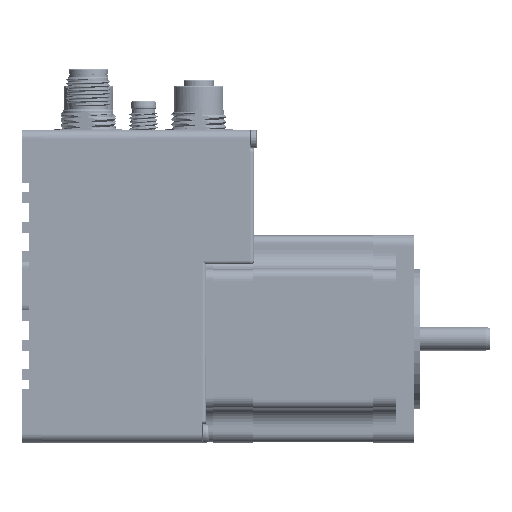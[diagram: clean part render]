
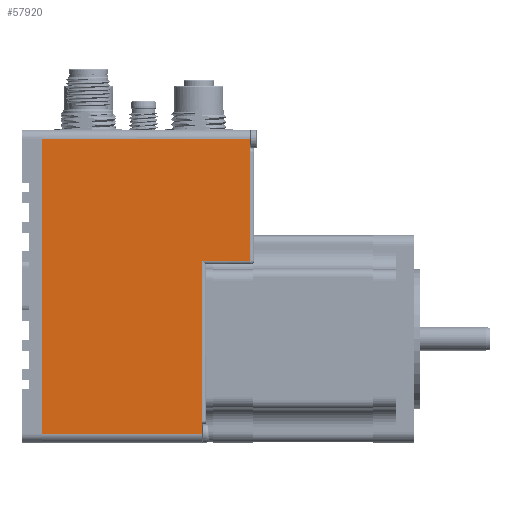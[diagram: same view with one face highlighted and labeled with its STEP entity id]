
A CAD part, left-side view. The second image highlights one B-rep face of the part: STEP entity #57920.
In plain terms, the highlighted planar face has unit normal (-1, 0, 0) as drawn and (0, -1, 0) by its records, which use the part's own axes.
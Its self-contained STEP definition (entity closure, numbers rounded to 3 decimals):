
#1123=B_SPLINE_CURVE_WITH_KNOTS('',3,(#95119,#95120,#95121,#95122),
 .UNSPECIFIED.,.F.,.F.,(4,4),(-0.026,1.),
 .UNSPECIFIED.);
#1129=B_SPLINE_CURVE_WITH_KNOTS('',3,(#95164,#95165,#95166,#95167),
 .UNSPECIFIED.,.F.,.F.,(4,4),(-0.571,0.429),
 .UNSPECIFIED.);
#1174=B_SPLINE_CURVE_WITH_KNOTS('',3,(#95420,#95421,#95422,#95423),
 .UNSPECIFIED.,.F.,.F.,(4,4),(0.,1.),.UNSPECIFIED.);
#1175=B_SPLINE_CURVE_WITH_KNOTS('',3,(#95425,#95426,#95427,#95428),
 .UNSPECIFIED.,.F.,.F.,(4,4),(0.,1.),.UNSPECIFIED.);
#1176=B_SPLINE_CURVE_WITH_KNOTS('',3,(#95430,#95431,#95432,#95433),
 .UNSPECIFIED.,.F.,.F.,(4,4),(0.,1.),.UNSPECIFIED.);
#1177=B_SPLINE_CURVE_WITH_KNOTS('',3,(#95435,#95436,#95437,#95438),
 .UNSPECIFIED.,.F.,.F.,(4,4),(0.,1.),.UNSPECIFIED.);
#1178=B_SPLINE_CURVE_WITH_KNOTS('',3,(#95440,#95441,#95442,#95443),
 .UNSPECIFIED.,.F.,.F.,(4,4),(0.,1.072),.UNSPECIFIED.);
#8709=ORIENTED_EDGE('',*,*,#25254,.T.);
#8710=ORIENTED_EDGE('',*,*,#25255,.T.);
#8711=ORIENTED_EDGE('',*,*,#25256,.T.);
#8712=ORIENTED_EDGE('',*,*,#25257,.T.);
#8713=ORIENTED_EDGE('',*,*,#25201,.F.);
#8714=ORIENTED_EDGE('',*,*,#25258,.T.);
#8715=ORIENTED_EDGE('',*,*,#25189,.T.);
#8716=ORIENTED_EDGE('',*,*,#25253,.F.);
#25189=EDGE_CURVE('',#33682,#33681,#1123,.T.);
#25201=EDGE_CURVE('',#33693,#33686,#1129,.T.);
#25253=EDGE_CURVE('',#33725,#33681,#1174,.F.);
#25254=EDGE_CURVE('',#33725,#33726,#1175,.T.);
#25255=EDGE_CURVE('',#33726,#33727,#1176,.T.);
#25256=EDGE_CURVE('',#33727,#33728,#1177,.T.);
#25257=EDGE_CURVE('',#33728,#33686,#1178,.T.);
#25258=EDGE_CURVE('',#33693,#33682,#39950,.F.);
#33681=VERTEX_POINT('',#95118);
#33682=VERTEX_POINT('',#95123);
#33686=VERTEX_POINT('',#95144);
#33693=VERTEX_POINT('',#95163);
#33725=VERTEX_POINT('',#95419);
#33726=VERTEX_POINT('',#95429);
#33727=VERTEX_POINT('',#95434);
#33728=VERTEX_POINT('',#95439);
#39950=LINE('',#95444,#44439);
#44439=VECTOR('',#81494,1000.);
#48411=EDGE_LOOP('',(#8709,#8710,#8711,#8712,#8713,#8714,#8715,#8716));
#52384=FACE_BOUND('',#48411,.T.);
#56228=PLANE('',#75529);
#57920=ADVANCED_FACE('',(#52384),#56228,.T.);
#75529=AXIS2_PLACEMENT_3D('',#95424,#81492,#81493);
#81492=DIRECTION('',(0.,-1.,0.));
#81493=DIRECTION('',(1.,0.,0.));
#81494=DIRECTION('',(0.,0.,1.));
#95118=CARTESIAN_POINT('',(44.,-28.2,0.));
#95119=CARTESIAN_POINT('',(-36.,-28.2,0.));
#95120=CARTESIAN_POINT('',(-9.333,-28.2,0.));
#95121=CARTESIAN_POINT('',(17.333,-28.2,0.));
#95122=CARTESIAN_POINT('',(44.,-28.2,0.));
#95123=CARTESIAN_POINT('',(-36.,-28.2,0.));
#95144=CARTESIAN_POINT('',(-32.5,-28.2,56.5));
#95163=CARTESIAN_POINT('',(-36.,-28.2,56.5));
#95164=CARTESIAN_POINT('',(-36.,-28.2,56.5));
#95165=CARTESIAN_POINT('',(-34.833,-28.2,56.5));
#95166=CARTESIAN_POINT('',(-33.667,-28.2,56.5));
#95167=CARTESIAN_POINT('',(-32.5,-28.2,56.5));
#95419=CARTESIAN_POINT('',(44.,-28.2,43.5));
#95420=CARTESIAN_POINT('',(44.,-28.2,0.));
#95421=CARTESIAN_POINT('',(44.,-28.2,14.5));
#95422=CARTESIAN_POINT('',(44.,-28.2,29.));
#95423=CARTESIAN_POINT('',(44.,-28.2,43.5));
#95424=CARTESIAN_POINT('',(-36.5,-28.2,0.));
#95425=CARTESIAN_POINT('',(44.,-28.2,43.5));
#95426=CARTESIAN_POINT('',(42.833,-28.2,43.5));
#95427=CARTESIAN_POINT('',(41.667,-28.2,43.5));
#95428=CARTESIAN_POINT('',(40.5,-28.2,43.5));
#95429=CARTESIAN_POINT('',(40.5,-28.2,43.5));
#95430=CARTESIAN_POINT('',(40.5,-28.2,43.5));
#95431=CARTESIAN_POINT('',(26.033,-28.2,43.5));
#95432=CARTESIAN_POINT('',(11.567,-28.2,43.5));
#95433=CARTESIAN_POINT('',(-2.9,-28.2,43.5));
#95434=CARTESIAN_POINT('',(-2.9,-28.2,43.5));
#95435=CARTESIAN_POINT('',(-2.9,-28.2,43.5));
#95436=CARTESIAN_POINT('',(-2.9,-28.2,47.833));
#95437=CARTESIAN_POINT('',(-2.9,-28.2,52.167));
#95438=CARTESIAN_POINT('',(-2.9,-28.2,56.5));
#95439=CARTESIAN_POINT('',(-2.9,-28.2,56.5));
#95440=CARTESIAN_POINT('',(-2.9,-28.2,56.5));
#95441=CARTESIAN_POINT('',(-12.767,-28.2,56.5));
#95442=CARTESIAN_POINT('',(-22.633,-28.2,56.5));
#95443=CARTESIAN_POINT('',(-32.5,-28.2,56.5));
#95444=CARTESIAN_POINT('',(-36.,-28.2,0.));
